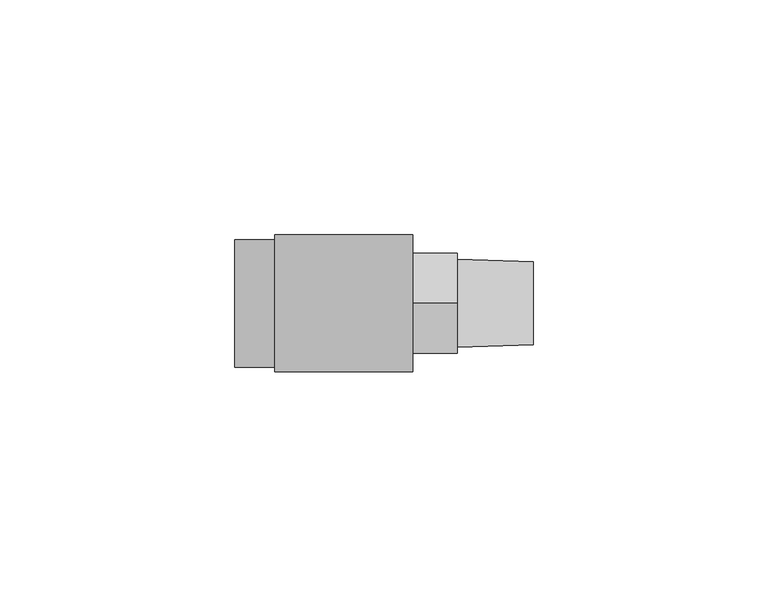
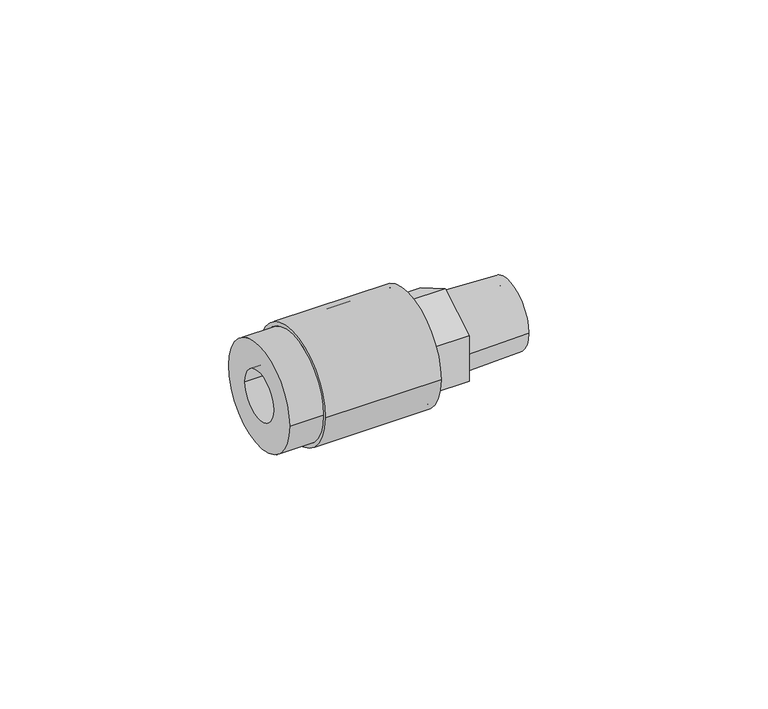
"""IFC4 building model written with IfcOpenShell, lengths in millimetres: pipe fitting geometry, Aquatherm - Fusion Outlet Transition Male : POTABLE BRASS - HEX."""

from ifc_helpers import new_model, si_unit, frame, origin, place, context, project, spatial, polyline, circle_curve, source, transform, mapped, element, save
from ifc_brep_helpers import plane_surface, cylinder_surface, revolved_surface, advanced_brep


def pipe_fitting_d9b66f35(model_context):
    return source(origin(), model_context, "Body", "AdvancedBrep", [
        advanced_brep(
        [(9.445625, 13.589, 0.0), (9.445625, -13.589, 0.0), (9.445625, 6.35, 0.0), (9.445625, -6.35, 0.0), (29.257625, 13.589, 0.0), (29.257625, -13.589, 0.0), (29.257625, 0.0, -12.3183453), (29.257625, -10.668, -6.1591727), (29.257625, -10.668, 6.1591727), (29.257625, 0.0, 12.3183453), (29.257625, 10.668, 6.1591727), (29.257625, 10.668, -6.1591727), (29.257625, 6.35, 0.0), (29.257625, -6.35, 0.0), (38.909625, 0.0, -12.3183453), (38.909625, 10.668, -6.1591727), (38.909625, 10.668, 6.1591727), (38.909625, 0.0, 12.3183453), (38.909625, -10.668, 6.1591727), (38.909625, -10.668, -6.1591727), (38.909625, 9.3810449, 0.0), (38.909625, -9.3810449, 0.0), (38.909625, 6.35, 0.0), (38.909625, -6.35, 0.0), (55.165625, -6.35, 0.0), (55.165625, 6.35, 0.0), (55.165625, -8.8752051, 0.0), (55.165625, 8.8752051, 0.0)],
        [
            (0, 1, circle_curve(frame((9.445625, 0.0, 0.0), z_axis=(-1.0, 0.0, 0.0), x_axis=(0.0, -1.0, 0.0)), 13.589)),
            (1, 0, circle_curve(frame((9.445625, 0.0, 0.0), z_axis=(-1.0, 0.0, 0.0), x_axis=(0.0, -1.0, 0.0)), 13.589)),
            (2, 3, circle_curve(frame((9.445625, 0.0, 0.0), z_axis=(1.0, 0.0, 0.0), x_axis=(0.0, -1.0, 0.0)), 6.35)),
            (3, 2, circle_curve(frame((9.445625, 0.0, 0.0), z_axis=(1.0, 0.0, 0.0), x_axis=(0.0, -1.0, 0.0)), 6.35)),
            (4, 5, circle_curve(frame((29.257625, 0.0, 0.0), z_axis=(1.0, 0.0, 0.0), x_axis=(0.0, -1.0, 0.0)), 13.589)),
            (5, 4, circle_curve(frame((29.257625, 0.0, 0.0), z_axis=(1.0, 0.0, 0.0), x_axis=(0.0, -1.0, 0.0)), 13.589)),
            (6, 7),
            (7, 8),
            (8, 9),
            (9, 10),
            (10, 11),
            (11, 6),
            (0, 4),
            (5, 1),
            (2, 12),
            (12, 13, circle_curve(frame((29.257625, 0.0, 0.0), z_axis=(1.0, 0.0, 0.0), x_axis=(0.0, -1.0, 0.0)), 6.35)),
            (13, 3),
            (13, 12, circle_curve(frame((29.257625, 0.0, 0.0), z_axis=(1.0, 0.0, 0.0), x_axis=(0.0, -1.0, 0.0)), 6.35)),
            (14, 15),
            (15, 16),
            (16, 17),
            (17, 18),
            (18, 19),
            (19, 14),
            (20, 21, circle_curve(frame((38.909625, 0.0, 0.0), z_axis=(-1.0, 0.0, 0.0), x_axis=(0.0, -1.0, 0.0)), 9.3810449)),
            (21, 20, circle_curve(frame((38.909625, 0.0, 0.0), z_axis=(-1.0, 0.0, 0.0), x_axis=(0.0, -1.0, 0.0)), 9.3810449)),
            (19, 7),
            (6, 14),
            (18, 8),
            (17, 9),
            (16, 10),
            (15, 11),
            (12, 22),
            (22, 23, circle_curve(frame((38.909625, 0.0, 0.0), z_axis=(1.0, 0.0, 0.0), x_axis=(0.0, -1.0, 0.0)), 6.35)),
            (23, 13),
            (23, 22, circle_curve(frame((38.909625, 0.0, 0.0), z_axis=(1.0, 0.0, 0.0), x_axis=(0.0, -1.0, 0.0)), 6.35)),
            (23, 24),
            (24, 25, circle_curve(frame((55.165625, 0.0, 0.0), z_axis=(1.0, 0.0, 0.0), x_axis=(0.0, -1.0, 0.0)), 6.35)),
            (25, 22),
            (25, 24, circle_curve(frame((55.165625, 0.0, 0.0), z_axis=(1.0, 0.0, 0.0), x_axis=(0.0, -1.0, 0.0)), 6.35)),
            (24, 26),
            (26, 27, circle_curve(frame((55.165625, 0.0, 0.0), z_axis=(1.0, 0.0, 0.0), x_axis=(0.0, -1.0, 0.0)), 8.8752051)),
            (27, 25),
            (27, 26, circle_curve(frame((55.165625, 0.0, 0.0), z_axis=(1.0, 0.0, 0.0), x_axis=(0.0, -1.0, 0.0)), 8.8752051)),
            (26, 21),
            (20, 27),
        ],
        [
            plane_surface(frame((9.445625, -13.589, 0.0), z_axis=(-1.0, 0.0, 0.0), x_axis=(0.0, 0.0, 1.0))),
            plane_surface(frame((29.257625, -13.589, 0.0), z_axis=(1.0, 0.0, 0.0), x_axis=(0.0, 0.0, -1.0))),
            cylinder_surface(frame((29.257625, 0.0, 0.0), z_axis=(-1.0, 0.0, 0.0), x_axis=(0.0, -1.0, 0.0)), 13.589),
            revolved_surface(polyline([(29.257625, -6.35, 0.0), (9.445625, -6.35, 0.0)]), (11.810406, 0.0, 0.0), (1.0, 0.0, 0.0)),
            plane_surface(frame((38.909625, 0.0, -12.3183453), z_axis=(1.0, 0.0, 0.0), x_axis=(0.0, 0.8660254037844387, -0.5))),
            plane_surface(frame((29.257625, 0.0, -12.3183453), z_axis=(0.0, -0.5, -0.8660254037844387), x_axis=(1.0, 0.0, 0.0))),
            plane_surface(frame((29.257625, -10.668, -6.1591727), z_axis=(0.0, -1.0, 0.0), x_axis=(1.0, 0.0, 0.0))),
            plane_surface(frame((29.257625, -10.668, 6.1591727), z_axis=(0.0, -0.49999999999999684, 0.8660254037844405), x_axis=(1.0, 0.0, 0.0))),
            plane_surface(frame((29.257625, 0.0, 12.3183453), z_axis=(0.0, 0.5000000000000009, 0.8660254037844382), x_axis=(1.0, 0.0, 0.0))),
            plane_surface(frame((29.257625, 10.668, 6.1591727), z_axis=(0.0, 1.0, 0.0), x_axis=(1.0, 0.0, 0.0))),
            plane_surface(frame((29.257625, 10.668, -6.1591727), z_axis=(0.0, 0.49999999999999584, -0.8660254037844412), x_axis=(1.0, 0.0, 0.0))),
            revolved_surface(polyline([(38.909625, -6.35, 0.0), (29.257625, -6.35, 0.0)]), (29.257625, 0.0, 0.0), (1.0, 0.0, 0.0)),
            revolved_surface(polyline([(55.165625, -6.35, 0.0), (38.909625, -6.35, 0.0)]), (90.0386938, 0.0, 0.0), (1.0, 0.0, 0.0)),
            plane_surface(frame((55.165625, 0.0, 0.0), z_axis=(1.0, 0.0, 0.0), x_axis=(0.0, -1.0, 0.0))),
            revolved_surface(polyline([(38.909625, -9.3810449, 0.0), (55.165625, -8.8752051, 0.0)]), (90.0386938, 0.0, 0.0), (1.0, 0.0, 0.0)),
        ],
        [
            (0, [[1, 2], [3, 4]]),
            (1, [[5, 6], [7, 8, 9, 10, 11, 12]]),
            (2, [[-1, 13, -6, 14]]),
            (2, [[-2, -14, -5, -13]]),
            (3, [[-3, 15, 16, 17]]),
            (3, [[-4, -17, 18, -15]]),
            (4, [[19, 20, 21, 22, 23, 24], [25, 26]]),
            (5, [[-24, 27, -7, 28]]),
            (6, [[-23, 29, -8, -27]]),
            (7, [[-22, 30, -9, -29]]),
            (8, [[-21, 31, -10, -30]]),
            (9, [[-20, 32, -11, -31]]),
            (10, [[-19, -28, -12, -32]]),
            (11, [[33, 34, 35, -16]]),
            (11, [[-33, -18, -35, 36]]),
            (12, [[37, 38, 39, -36]]),
            (12, [[-37, -34, -39, 40]]),
            (13, [[-38, 41, 42, 43]]),
            (13, [[-40, -43, 44, -41]]),
            (14, [[-42, 45, -25, 46]]),
            (14, [[-44, -46, -26, -45]]),
        ],
    ),
        advanced_brep(
        [(9.4257813, 13.5929688, 0.0), (9.4257813, -13.5929687, 0.0), (9.4257813, 6.35, 0.0), (9.4257813, -6.35, 0.0), (-8.5124324, -6.35, 0.0), (-8.5124324, 6.35, 0.0), (-8.5124324, -13.5929688, 0.0), (-8.5124324, 13.5929688, 0.0), (0.0, 13.5929688, 0.0), (0.0, -13.5929688, 0.0), (29.4441562, 14.6347656, 0.0), (29.4441562, -14.6347656, 0.0), (29.4441562, 13.5929688, 0.0), (29.4441562, -13.5929687, 0.0), (0.0, -14.6347656, 0.0), (0.0, 14.6347656, 0.0)],
        [
            (0, 1, circle_curve(frame((9.4257813, 0.0, 0.0), z_axis=(1.0, 0.0, 0.0), x_axis=(0.0, -1.0, 0.0)), 13.5929688)),
            (1, 0, circle_curve(frame((9.4257813, 0.0, 0.0), z_axis=(1.0, 0.0, 0.0), x_axis=(0.0, -1.0, 0.0)), 13.5929688)),
            (2, 3, circle_curve(frame((9.4257813, 0.0, 0.0), z_axis=(-1.0, 0.0, 0.0), x_axis=(0.0, -1.0, 0.0)), 6.35)),
            (3, 2, circle_curve(frame((9.4257813, 0.0, 0.0), z_axis=(-1.0, 0.0, 0.0), x_axis=(0.0, -1.0, 0.0)), 6.35)),
            (4, 5, circle_curve(frame((-8.5124324, 0.0, 0.0), z_axis=(-1.0, 0.0, 0.0), x_axis=(0.0, -1.0, 0.0)), 6.35)),
            (5, 2),
            (3, 4),
            (5, 4, circle_curve(frame((-8.5124324, 0.0, 0.0), z_axis=(-1.0, 0.0, 0.0), x_axis=(0.0, -1.0, 0.0)), 6.35)),
            (6, 7, circle_curve(frame((-8.5124324, 0.0, 0.0), z_axis=(1.0, 0.0, 0.0), x_axis=(0.0, -1.0, 0.0)), 13.5929688)),
            (7, 8),
            (8, 9, circle_curve(frame((0.0, 0.0, 0.0), z_axis=(-1.0, 0.0, 0.0), x_axis=(0.0, -1.0, 0.0)), 13.5929688)),
            (9, 6),
            (7, 6, circle_curve(frame((-8.5124324, 0.0, 0.0), z_axis=(1.0, 0.0, 0.0), x_axis=(0.0, -1.0, 0.0)), 13.5929688)),
            (9, 8, circle_curve(frame((0.0, 0.0, 0.0), z_axis=(-1.0, 0.0, 0.0), x_axis=(0.0, -1.0, 0.0)), 13.5929688)),
            (10, 11, circle_curve(frame((29.4441562, 0.0, 0.0), z_axis=(1.0, 0.0, 0.0), x_axis=(0.0, -1.0, 0.0)), 14.6347656)),
            (11, 10, circle_curve(frame((29.4441562, 0.0, 0.0), z_axis=(1.0, 0.0, 0.0), x_axis=(0.0, -1.0, 0.0)), 14.6347656)),
            (12, 13, circle_curve(frame((29.4441562, 0.0, 0.0), z_axis=(-1.0, 0.0, 0.0), x_axis=(0.0, -1.0, 0.0)), 13.5929688)),
            (13, 12, circle_curve(frame((29.4441562, 0.0, 0.0), z_axis=(-1.0, 0.0, 0.0), x_axis=(0.0, -1.0, 0.0)), 13.5929688)),
            (13, 1),
            (0, 12),
            (11, 14),
            (14, 15, circle_curve(frame((0.0, 0.0, 0.0), z_axis=(1.0, 0.0, 0.0), x_axis=(0.0, -1.0, 0.0)), 14.6347656)),
            (15, 10),
            (15, 14, circle_curve(frame((0.0, 0.0, 0.0), z_axis=(1.0, 0.0, 0.0), x_axis=(0.0, -1.0, 0.0)), 14.6347656)),
        ],
        [
            plane_surface(frame((9.4257813, -6.35, 0.0), z_axis=(1.0, 0.0, 0.0), x_axis=(0.0, 0.0, 1.0))),
            revolved_surface(polyline([(9.4257813, -6.35, 0.0), (-8.512432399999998, -6.35, 0.0)]), (9.4257813, 0.0, 0.0), (1.0, 0.0, 0.0)),
            cylinder_surface(frame((0.0, 0.0, 0.0), z_axis=(-1.0, 0.0, 0.0), x_axis=(0.0, -1.0, 0.0)), 13.5929688),
            plane_surface(frame((29.4441562, -13.5929687, 0.0), z_axis=(1.0, 0.0, 0.0), x_axis=(0.0, 0.0, 1.0))),
            revolved_surface(polyline([(29.4441562, -13.5929688, 0.0), (9.4257813, -13.5929688, 0.0)]), (29.4441562, 0.0, 0.0), (1.0, 0.0, 0.0)),
            cylinder_surface(frame((0.0, 0.0, 0.0), z_axis=(-1.0, 0.0, 0.0), x_axis=(0.0, -1.0, 0.0)), 14.6347656),
            plane_surface(frame((-8.5124324, -6.35, 0.0), z_axis=(-1.0, 0.0, 0.0), x_axis=(0.0, 0.0, -1.0))),
            plane_surface(frame((0.0, -13.5929687, 0.0), z_axis=(-1.0, 0.0, 0.0), x_axis=(0.0, 0.0, -1.0))),
        ],
        [
            (0, [[1, 2], [3, 4]]),
            (1, [[5, 6, -4, 7]]),
            (1, [[8, -7, -3, -6]]),
            (2, [[9, 10, 11, 12]]),
            (2, [[13, -12, 14, -10]]),
            (3, [[15, 16], [17, 18]]),
            (4, [[-18, 19, -1, 20]]),
            (4, [[-17, -20, -2, -19]]),
            (5, [[-16, 21, 22, 23]]),
            (5, [[-15, -23, 24, -21]]),
            (6, [[-9, -13], [-5, -8]]),
            (7, [[-22, -24], [-11, -14]]),
        ],
    ),
    ])


if __name__ == "__main__":
    model = new_model("IFC4")
    model_context = context("Model", 3, world=origin())
    ifc_project = project(units=[si_unit("LENGTHUNIT", "METRE", prefix="MILLI")], contexts=[model_context])
    site = spatial("IfcSite", under=ifc_project)
    building = spatial("IfcBuilding", under=site)
    placement = place(None, origin())
    pipe_fitting_shape = pipe_fitting_d9b66f35(model_context)
    element("IfcPipeFitting", 1, ObjectType="Aquatherm - Fusion Outlet Transition Male : POTABLE BRASS - HEX", at=placement, inside=building, context=model_context, shape_type="MappedRepresentation", body=[
        mapped(pipe_fitting_shape, transform((0.0, 0.0, 0.0), x_axis=(1.0, 0.0, 0.0), y_axis=(0.0, 1.0, 0.0), z_axis=(0.0, 0.0, 1.0))),
    ])
    save(model, "model.ifc")
